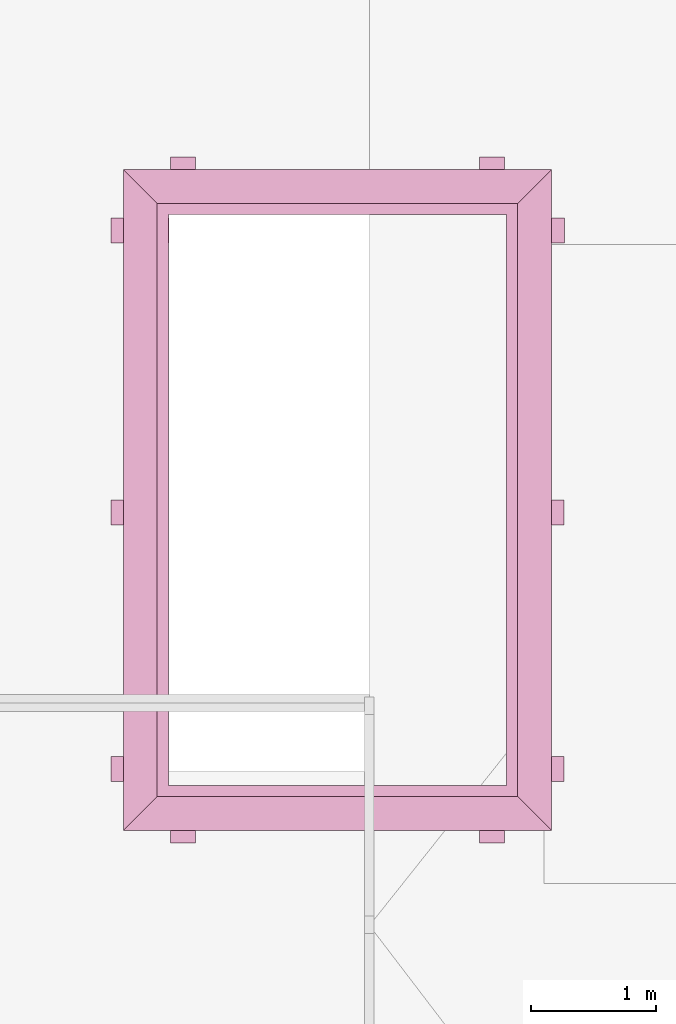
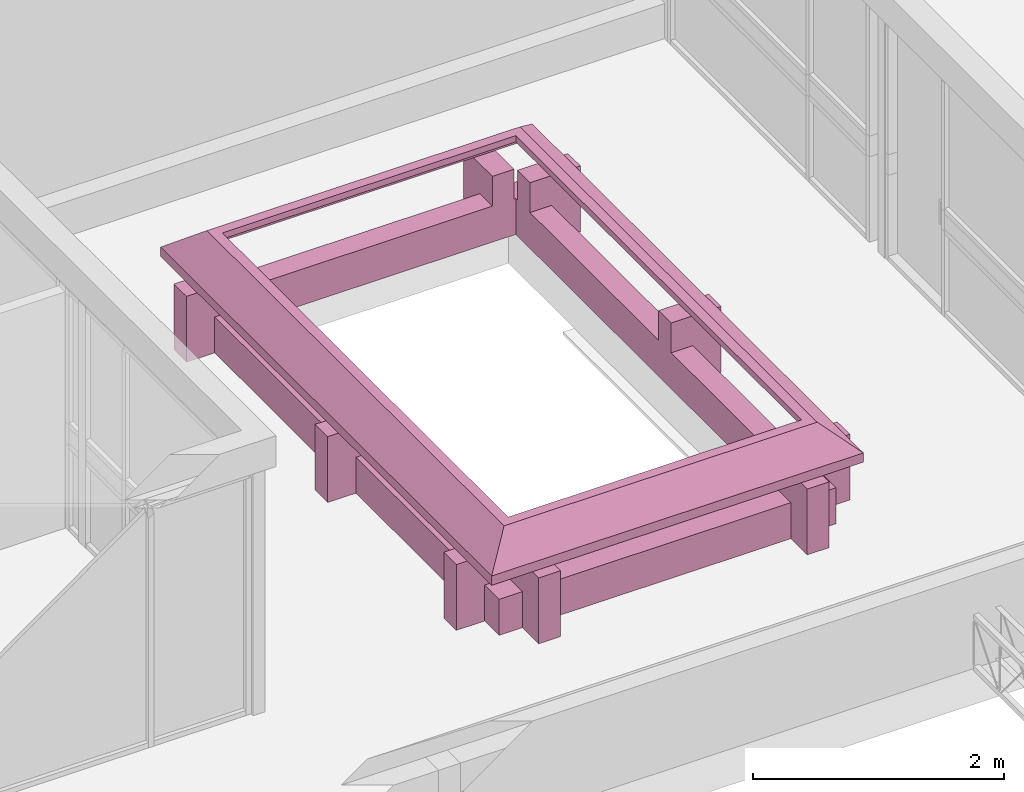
# One storey, part 153 of 153: 1 furniture element.
"""IFC4 building model written with IfcOpenShell, lengths in metres."""

from ifc_helpers import new_model, entity, si_unit, converted_unit, derived_unit, direction, frame, origin, place, context, subcontext, project, spatial, polygons, source, transform, mapped, material, type_object, type_shapes, element, save


model = new_model("IFC4")

# Units and contexts
model_context = context("Model", 3, precision=1e-05, world=origin(), true_north=direction((6.123031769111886e-17, 1.0)))
body_context = subcontext(model_context, "Body", "Model", "MODEL_VIEW")
ifc_project = project(units=[si_unit("LENGTHUNIT", "METRE"), si_unit("AREAUNIT", "SQUARE_METRE"), si_unit("VOLUMEUNIT", "CUBIC_METRE"), converted_unit("PLANEANGLEUNIT", "DEGREE", entity("IfcRatioMeasure", 0.017453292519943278), si_unit("PLANEANGLEUNIT", "RADIAN"), dimensions=[0, 0, 0, 0, 0, 0, 0]), si_unit("MASSUNIT", "GRAM", prefix="KILO"), derived_unit("MASSDENSITYUNIT", [(si_unit("MASSUNIT", "GRAM", prefix="KILO"), 1), (si_unit("LENGTHUNIT", "METRE"), -3)]), derived_unit("MOMENTOFINERTIAUNIT", [(si_unit("LENGTHUNIT", "METRE"), 4)]), si_unit("TIMEUNIT", "SECOND"), si_unit("FREQUENCYUNIT", "HERTZ"), si_unit("THERMODYNAMICTEMPERATUREUNIT", "DEGREE_CELSIUS"), derived_unit("THERMALTRANSMITTANCEUNIT", [(si_unit("MASSUNIT", "GRAM", prefix="KILO"), 1), (si_unit("THERMODYNAMICTEMPERATUREUNIT", "KELVIN"), -1), (si_unit("TIMEUNIT", "SECOND"), -3)]), derived_unit("VOLUMETRICFLOWRATEUNIT", [(si_unit("LENGTHUNIT", "METRE"), 3), (si_unit("TIMEUNIT", "SECOND"), -1)]), derived_unit("MASSFLOWRATEUNIT", [(si_unit("MASSUNIT", "GRAM", prefix="KILO"), 1), (si_unit("TIMEUNIT", "SECOND"), -1)]), derived_unit("ROTATIONALFREQUENCYUNIT", [(si_unit("TIMEUNIT", "SECOND"), -1)]), si_unit("ELECTRICCURRENTUNIT", "AMPERE"), si_unit("ELECTRICVOLTAGEUNIT", "VOLT"), si_unit("POWERUNIT", "WATT"), si_unit("FORCEUNIT", "NEWTON", prefix="KILO"), si_unit("ILLUMINANCEUNIT", "LUX"), si_unit("LUMINOUSFLUXUNIT", "LUMEN"), si_unit("LUMINOUSINTENSITYUNIT", "CANDELA"), derived_unit("USERDEFINED", [(si_unit("MASSUNIT", "GRAM", prefix="KILO"), -1), (si_unit("LENGTHUNIT", "METRE"), -2), (si_unit("TIMEUNIT", "SECOND"), 3), (si_unit("LUMINOUSFLUXUNIT", "LUMEN"), 1)]), derived_unit("SOUNDPOWERUNIT", [(si_unit("MASSUNIT", "GRAM", prefix="KILO"), 1), (si_unit("LENGTHUNIT", "METRE"), 2), (si_unit("TIMEUNIT", "SECOND"), -3)]), derived_unit("SOUNDPRESSUREUNIT", [(si_unit("MASSUNIT", "GRAM", prefix="KILO"), 1), (si_unit("LENGTHUNIT", "METRE"), -1), (si_unit("TIMEUNIT", "SECOND"), -2)]), derived_unit("LINEARVELOCITYUNIT", [(si_unit("LENGTHUNIT", "METRE"), 1), (si_unit("TIMEUNIT", "SECOND"), -1)]), si_unit("PRESSUREUNIT", "PASCAL"), derived_unit("USERDEFINED", [(si_unit("LENGTHUNIT", "METRE"), -2), (si_unit("MASSUNIT", "GRAM", prefix="KILO"), 1), (si_unit("TIMEUNIT", "SECOND"), -2)]), derived_unit("LINEARFORCEUNIT", [(si_unit("MASSUNIT", "GRAM", prefix="KILO"), 1), (si_unit("LENGTHUNIT", "METRE"), 1), (si_unit("TIMEUNIT", "SECOND"), -2), (si_unit("LENGTHUNIT", "METRE"), -1)]), derived_unit("PLANARFORCEUNIT", [(si_unit("MASSUNIT", "GRAM", prefix="KILO"), 1), (si_unit("LENGTHUNIT", "METRE"), 1), (si_unit("TIMEUNIT", "SECOND"), -2), (si_unit("LENGTHUNIT", "METRE"), -2)])], contexts=[model_context])

# Site, building, storey
site_placement = place(None, origin())
site = spatial("IfcSite", under=ifc_project, at=site_placement, Name="Superficie", CompositionType="ELEMENT")
building_placement = place(site_placement, origin())
building = spatial("IfcBuilding", under=site, at=building_placement, CompositionType="ELEMENT")
storey_placement = place(building_placement, frame((0.0, 0.0, 3.5999999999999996)))
storey = spatial("IfcBuildingStorey", under=building, at=storey_placement, Name="Nivel 1", CompositionType="ELEMENT", Elevation=3.5999999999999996)

# Furniture
ifc_material = material(Name="Madera - Listel", Category="Madera")
furniture_type = type_object("IfcFurnitureType", Name="baranda hueco:baranda hueco", AssemblyPlace="NOTDEFINED", PredefinedType="NOTDEFINED", material=ifc_material)
shared_shape = source(origin(), body_context, "Body", "Tessellation", [
    polygons([(0.0, 0.4900000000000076, 0.6400000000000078), (0.10000000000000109, 0.49000000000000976, 0.6400000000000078), (0.4599999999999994, 0.49000000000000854, 0.6400000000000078), (0.4599999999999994, 0.6900000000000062, 0.6400000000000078), (0.0, 0.6900000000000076, 0.6400000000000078), (0.0, 0.4900000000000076, 7.580069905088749e-15), (0.10000000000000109, 0.49000000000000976, 7.580069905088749e-15), (0.4599999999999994, 0.49000000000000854, 7.580069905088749e-15), (0.4599999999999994, 0.6900000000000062, 7.580069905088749e-15), (0.0, 0.6900000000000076, 7.580069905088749e-15)], [[[1, 2, 3, 4, 5]], [[2, 1, 6, 7]], [[3, 2, 7, 8]], [[4, 3, 8, 9]], [[5, 4, 9, 10]], [[1, 5, 10, 6]], [[6, 10, 9, 8, 7]]], closed=True),
    polygons([(3.6249999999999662, 4.7899999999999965, 7.580069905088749e-15), (3.15999999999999, 4.789999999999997, 7.580069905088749e-15), (3.15999999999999, 4.9899999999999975, 7.580069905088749e-15), (3.6249999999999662, 4.989999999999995, 7.580069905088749e-15), (3.6249999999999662, 4.989999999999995, 0.6400000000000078), (3.6249999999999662, 4.7899999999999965, 0.6400000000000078), (3.15999999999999, 4.9899999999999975, 0.6400000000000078), (3.15999999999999, 4.789999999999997, 0.6400000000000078)], [[[1, 2, 3, 4]], [[5, 6, 1, 4]], [[7, 5, 4, 3]], [[8, 7, 3, 2]], [[6, 8, 2, 1]], [[6, 5, 7, 8]]], closed=True),
    polygons([(0.4600000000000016, 2.7400000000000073, 0.6400000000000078), (0.4600000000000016, 2.540000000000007, 0.6400000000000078), (0.4600000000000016, 2.540000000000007, 7.580069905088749e-15), (0.4600000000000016, 2.7400000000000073, 7.580069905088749e-15), (2.1657342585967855e-15, 2.7400000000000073, 0.6400000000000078), (2.1657342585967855e-15, 2.7400000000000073, 7.580069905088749e-15), (2.1657342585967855e-15, 2.540000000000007, 0.6400000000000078), (2.1657342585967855e-15, 2.540000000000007, 7.580069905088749e-15)], [[[1, 2, 3, 4]], [[5, 1, 4, 6]], [[7, 5, 6, 8]], [[2, 7, 8, 3]], [[3, 8, 6, 4]], [[2, 1, 5, 7]]], closed=True),
    polygons([(0.4649999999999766, 4.9900000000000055, 0.6400000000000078), (0.4649999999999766, 4.790000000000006, 0.6400000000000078), (0.4649999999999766, 4.790000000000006, 7.580069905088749e-15), (0.4649999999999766, 4.9900000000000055, 7.580069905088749e-15), (4.331468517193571e-15, 4.990000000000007, 0.6400000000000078), (4.331468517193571e-15, 4.990000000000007, 7.580069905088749e-15), (4.331468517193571e-15, 4.790000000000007, 0.6400000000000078), (4.331468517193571e-15, 4.790000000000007, 7.580069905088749e-15)], [[[1, 2, 3, 4]], [[5, 1, 4, 6]], [[7, 5, 6, 8]], [[2, 7, 8, 3]], [[3, 8, 6, 4]], [[2, 1, 5, 7]]], closed=True),
    polygons([(3.2599999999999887, 0.4899999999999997, 0.6400000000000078), (3.1599999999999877, 0.48999999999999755, 0.6400000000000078), (3.1599999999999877, 0.48999999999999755, 7.580069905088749e-15), (3.2599999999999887, 0.4899999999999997, 7.580069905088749e-15), (3.6199999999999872, 0.4899999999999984, 0.6400000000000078), (3.6199999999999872, 0.4899999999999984, 7.580069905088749e-15), (3.6199999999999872, 0.689999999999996, 0.6400000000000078), (3.6199999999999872, 0.689999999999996, 7.580069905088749e-15), (3.1599999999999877, 0.6899999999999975, 0.6400000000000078), (3.1599999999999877, 0.6899999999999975, 7.580069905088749e-15)], [[[1, 2, 3, 4]], [[5, 1, 4, 6]], [[7, 5, 6, 8]], [[9, 7, 8, 10]], [[2, 9, 10, 3]], [[3, 10, 8, 6, 4]], [[2, 1, 5, 7, 9]]], closed=True),
    polygons([(3.6199999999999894, 2.7399999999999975, 0.6400000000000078), (3.6199999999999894, 2.539999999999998, 0.6400000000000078), (3.6199999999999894, 2.539999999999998, 7.580069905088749e-15), (3.6199999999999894, 2.7399999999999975, 7.580069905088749e-15), (3.15999999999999, 2.7399999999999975, 0.6400000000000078), (3.15999999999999, 2.7399999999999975, 7.580069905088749e-15), (3.15999999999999, 2.539999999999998, 0.6400000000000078), (3.15999999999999, 2.539999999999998, 7.580069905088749e-15)], [[[1, 2, 3, 4]], [[5, 1, 4, 6]], [[7, 5, 6, 8]], [[2, 7, 8, 3]], [[3, 8, 6, 4]], [[2, 1, 5, 7]]], closed=True),
    polygons([(0.6750000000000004, 8.392220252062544e-15, 0.6400000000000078), (0.4750000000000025, 8.392220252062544e-15, 0.6400000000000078), (0.4750000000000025, 8.392220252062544e-15, 7.580069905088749e-15), (0.6750000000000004, 8.392220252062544e-15, 7.580069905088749e-15), (0.6750000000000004, 0.4600000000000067, 0.6400000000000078), (0.6750000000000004, 0.4600000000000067, 7.580069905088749e-15), (0.4750000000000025, 0.46000000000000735, 0.6400000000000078), (0.4750000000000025, 0.46000000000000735, 7.580069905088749e-15), (0.4750000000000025, 0.10000000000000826, 0.6400000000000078), (0.4750000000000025, 0.10000000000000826, 7.580069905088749e-15)], [[[1, 2, 3, 4]], [[5, 1, 4, 6]], [[7, 5, 6, 8]], [[9, 7, 8, 10]], [[2, 9, 10, 3]], [[3, 10, 8, 6, 4]], [[2, 1, 5, 7, 9]]], closed=True),
    polygons([(3.144999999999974, 0.0, 0.6400000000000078), (2.9449999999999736, 0.0, 0.6400000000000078), (2.9449999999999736, 0.0, 7.580069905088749e-15), (3.144999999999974, 0.0, 7.580069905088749e-15), (3.144999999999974, 0.4599999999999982, 0.6400000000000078), (3.144999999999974, 0.4599999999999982, 7.580069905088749e-15), (2.9449999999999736, 0.45999999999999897, 0.6400000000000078), (2.9449999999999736, 0.45999999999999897, 7.580069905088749e-15), (2.9449999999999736, 0.09999999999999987, 0.6400000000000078), (2.9449999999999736, 0.09999999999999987, 7.580069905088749e-15)], [[[1, 2, 3, 4]], [[5, 1, 4, 6]], [[7, 5, 6, 8]], [[9, 7, 8, 10]], [[2, 9, 10, 3]], [[3, 10, 8, 6, 4]], [[2, 1, 5, 7, 9]]], closed=True),
    polygons([(0.6750000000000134, 5.016145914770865, 0.6400000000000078), (0.47500000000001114, 5.016145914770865, 0.6400000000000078), (0.47500000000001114, 5.016145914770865, 7.580069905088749e-15), (0.6750000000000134, 5.016145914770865, 7.580069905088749e-15), (0.6750000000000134, 5.476145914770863, 0.6400000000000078), (0.6750000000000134, 5.476145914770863, 7.580069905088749e-15), (0.47500000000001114, 5.476145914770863, 0.6400000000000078), (0.47500000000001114, 5.476145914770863, 7.580069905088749e-15), (0.47500000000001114, 5.116145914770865, 0.6400000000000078), (0.47500000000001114, 5.116145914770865, 7.580069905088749e-15)], [[[1, 2, 3, 4]], [[5, 1, 4, 6]], [[7, 5, 6, 8]], [[9, 7, 8, 10]], [[2, 9, 10, 3]], [[3, 10, 8, 6, 4]], [[2, 1, 5, 7, 9]]], closed=True),
    polygons([(3.1449999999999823, 5.016145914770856, 0.6400000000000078), (2.9449999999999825, 5.016145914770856, 0.6400000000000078), (2.9449999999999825, 5.016145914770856, 7.580069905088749e-15), (3.1449999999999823, 5.016145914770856, 7.580069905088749e-15), (3.1449999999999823, 5.476145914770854, 0.6400000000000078), (3.1449999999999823, 5.476145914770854, 7.580069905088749e-15), (2.9449999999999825, 5.476145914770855, 0.6400000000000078), (2.9449999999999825, 5.476145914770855, 7.580069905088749e-15), (2.9449999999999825, 5.116145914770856, 0.6400000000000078), (2.9449999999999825, 5.116145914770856, 7.580069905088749e-15)], [[[1, 2, 3, 4]], [[5, 1, 4, 6]], [[7, 5, 6, 8]], [[9, 7, 8, 10]], [[2, 9, 10, 3]], [[3, 10, 8, 6, 4]], [[2, 1, 5, 7, 9]]], closed=True),
    polygons([(3.159999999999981, 5.016145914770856, 6.497202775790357e-15), (3.159999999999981, 5.016145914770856, 0.35000000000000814), (0.4600000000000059, 5.016145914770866, 0.35000000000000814), (0.4600000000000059, 5.016145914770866, 2.1657342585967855e-15), (3.359999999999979, 5.216145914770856, 0.35000000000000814), (3.359999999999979, 5.216145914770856, 7.580069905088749e-15), (0.26000000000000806, 5.216145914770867, 7.580069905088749e-15), (0.26000000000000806, 5.216145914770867, 0.35000000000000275), (0.4600000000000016, 0.46000000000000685, 0.35000000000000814), (0.4599999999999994, 0.4600000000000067, 2.1657342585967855e-15), (0.2599999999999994, 0.26000000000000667, 7.580069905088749e-15), (0.2599999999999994, 0.26000000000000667, 0.35000000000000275), (3.1599999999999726, 0.45999999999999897, 0.35000000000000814), (3.1599999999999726, 0.4599999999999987, 6.497202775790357e-15), (3.3599999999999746, 0.259999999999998, 7.580069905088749e-15), (3.3599999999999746, 0.259999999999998, 0.35000000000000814)], [[[1, 2, 3, 4]], [[5, 6, 7, 8]], [[4, 3, 9, 10]], [[8, 7, 11, 12]], [[10, 9, 13, 14]], [[12, 11, 15, 16]], [[14, 13, 2, 1]], [[6, 15, 11, 7], [4, 10, 14, 1]], [[16, 15, 6, 5]], [[8, 12, 16, 5], [2, 13, 9, 3]]], closed=True),
    polygons([(3.159999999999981, 5.016145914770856, 0.9000000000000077), (3.159999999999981, 5.016145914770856, 0.9600000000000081), (0.4600000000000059, 5.016145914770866, 0.9600000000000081), (0.4600000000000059, 5.016145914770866, 0.8999999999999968), (3.45999999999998, 5.316145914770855, 0.7300000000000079), (3.2499999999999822, 5.106145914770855, 0.9000000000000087), (0.3700000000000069, 5.106145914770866, 0.9000000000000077), (0.16000000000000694, 5.316145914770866, 0.7300000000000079), (3.459999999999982, 5.316145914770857, 0.6400000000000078), (0.16000000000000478, 5.316145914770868, 0.6399999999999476), (3.5199999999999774, 5.376145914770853, 0.7300000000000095), (3.519999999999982, 5.376145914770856, 0.6400000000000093), (0.10000000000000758, 5.376145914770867, 0.6400000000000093), (0.10000000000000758, 5.3761459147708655, 0.730000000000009), (3.2499999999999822, 5.106145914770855, 0.9600000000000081), (0.3700000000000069, 5.106145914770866, 0.960000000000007), (0.4600000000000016, 0.46000000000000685, 0.9600000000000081), (0.4599999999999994, 0.46000000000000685, 0.8999999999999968), (0.3700000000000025, 0.37000000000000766, 0.9000000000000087), (0.1600000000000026, 0.16000000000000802, 0.7300000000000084), (0.15999999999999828, 0.16000000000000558, 0.6399999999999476), (0.09999999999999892, 0.10000000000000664, 0.6400000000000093), (0.10000000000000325, 0.10000000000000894, 0.7300000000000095), (0.3700000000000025, 0.3700000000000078, 0.9600000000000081), (3.1599999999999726, 0.45999999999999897, 0.9600000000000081), (3.1599999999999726, 0.4599999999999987, 0.9000000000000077), (3.249999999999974, 0.36999999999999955, 0.9000000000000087), (3.4599999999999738, 0.1599999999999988, 0.7300000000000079), (3.4599999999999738, 0.15999999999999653, 0.6400000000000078), (3.519999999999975, 0.09999999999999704, 0.6400000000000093), (3.519999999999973, 0.0999999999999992, 0.7300000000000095), (3.249999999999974, 0.36999999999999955, 0.9600000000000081)], [[[1, 2, 3, 4]], [[5, 6, 7, 8]], [[9, 5, 8, 10]], [[11, 12, 13, 14]], [[15, 11, 14, 16]], [[4, 3, 17, 18]], [[8, 7, 19, 20]], [[10, 8, 20, 21]], [[14, 13, 22, 23]], [[16, 14, 23, 24]], [[18, 17, 25, 26]], [[20, 19, 27, 28]], [[21, 20, 28, 29]], [[23, 22, 30, 31]], [[24, 23, 31, 32]], [[26, 25, 2, 1]], [[6, 27, 19, 7], [4, 18, 26, 1]], [[28, 27, 6, 5]], [[29, 28, 5, 9]], [[12, 30, 22, 13], [10, 21, 29, 9]], [[31, 30, 12, 11]], [[32, 31, 11, 15]], [[16, 24, 32, 15], [2, 25, 17, 3]]], closed=True),
])
type_shapes(furniture_type, [shared_shape])
furniture_placement = place(storey_placement, frame((12.531799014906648, -1.3041707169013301, 0.0)))
element("IfcFurniture", 1, at=furniture_placement, inside=storey, type_object=furniture_type, material=ifc_material, Name="baranda hueco:baranda hueco", ObjectType="baranda hueco:baranda hueco", PredefinedType="NOTDEFINED", context=body_context, shape_type="MappedRepresentation", body=[
    mapped(shared_shape, transform((0.0, 0.0, 0.0), scale=1.0)),
])

save(model, "model.ifc")
